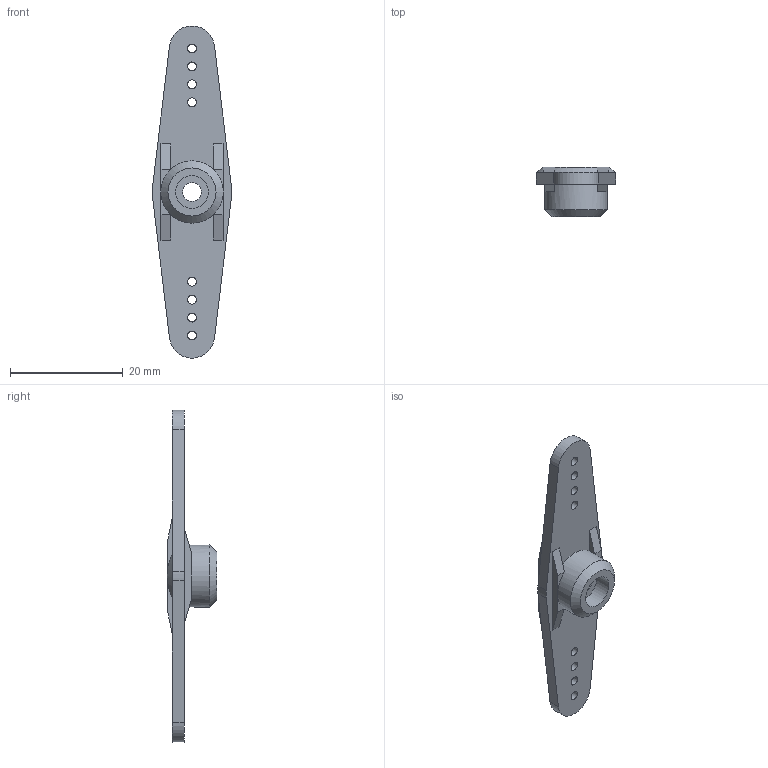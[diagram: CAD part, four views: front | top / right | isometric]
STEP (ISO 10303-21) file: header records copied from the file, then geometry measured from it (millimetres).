
FILE_DESCRIPTION(/* description */ ('SUPER STRENGTH LONG SERVO DOUBLE ARM'),/* implementation_level */ '2;1');
FILE_NAME(/* name */ 'C:\IV2022WorkFolder\Designs\Bob\VENDORS\MECHANICAL\Dubro\Arm_publish\670_D SUPER STRENGTH LONG SERVO DOUBLE ARM.stp',/* time_stamp */ '2022-08-04T11:47:50-05:00',/* author */ ('dotwibo2'),/* organization */ (''),/* preprocessor_version */ 'ST-DEVELOPER v18.1',/* originating_system */ 'Autodesk Inventor 2022',/* authorisation */ '');
FILE_SCHEMA (('CONFIG_CONTROL_DESIGN'));
Length unit declared in the file: millimetre
Products named in the file (1): 670 D
Bounding box: 14.1 x 8.8 x 58.77 mm (x, y, z)
Volume: 1708.3 mm3; surface area: 1922.4 mm2
Topology: 1 solids, 1 shells, 59 faces, 152 edges, 98 vertices
Faces by surface type: plane 37, cylinder 16, cone 6
Full cylindrical faces by diameter (mm): 1.587 x8, 3.3 x1, 5.85 x1, 6.5 x1, 11 x1
Entity records: 1865 total; most frequent: CARTESIAN_POINT 326, DIRECTION 312, ORIENTED_EDGE 304, EDGE_CURVE 152, AXIS2_PLACEMENT_3D 108, VERTEX_POINT 98, LINE 96, VECTOR 96
